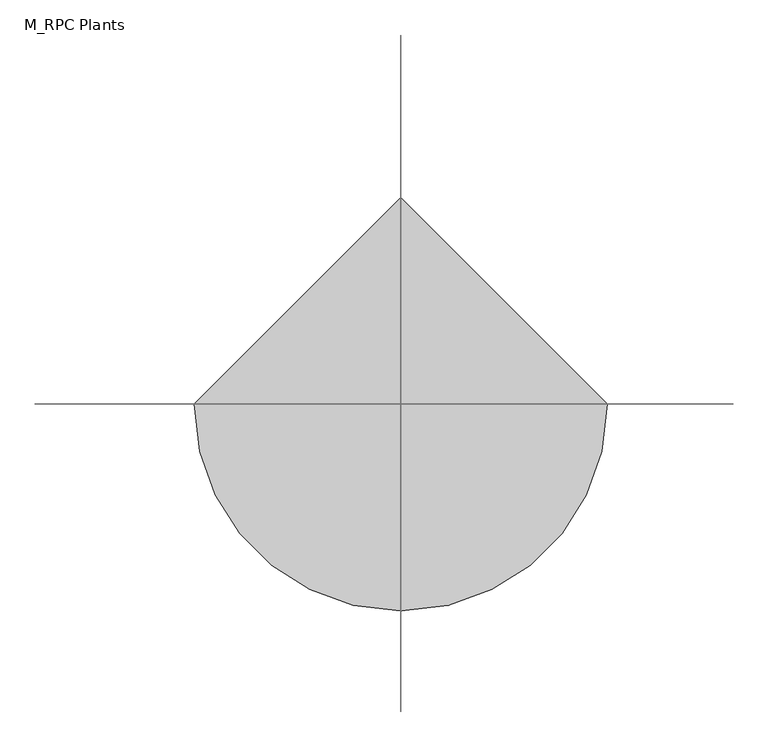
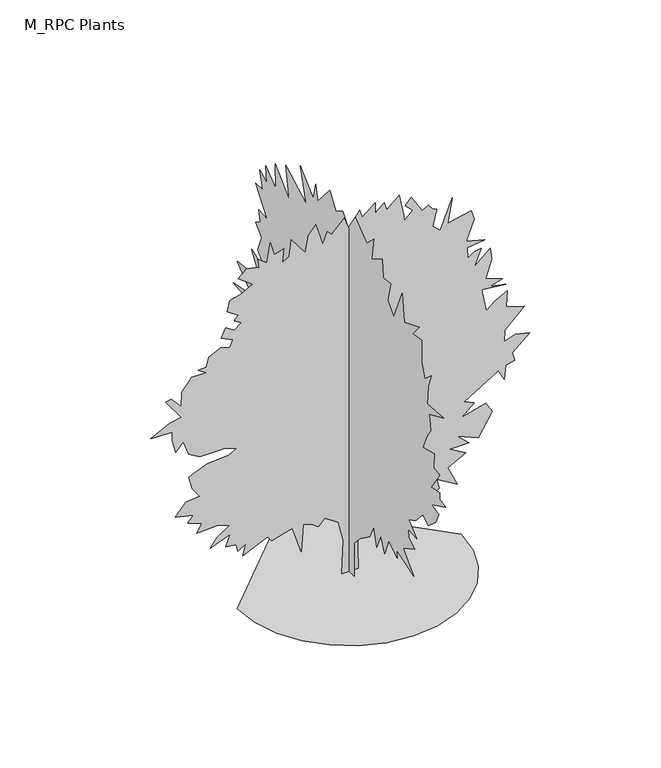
"""IFC4 building model written with IfcOpenShell, lengths in millimetres: proxy geometry, M_RPC Plants : Jungel Flame."""

from ifc_helpers import new_model, si_unit, origin, place, context, project, spatial, triangles, source, transform, mapped, element, save


def m_rpc_plants_31e44138(model_context):
    return source(origin(), model_context, "Body", "Tessellation", [
        triangles([(-297.8835799, 0.0, 5.16e-05), (-290.0095692, -68.2551316, 5.16e-05), (-267.5813779, -130.9367389, 5.16e-05), (-232.3950082, -186.2485517, 5.16e-05), (-186.2485517, -232.3952625, 5.16e-05), (-130.9367389, -267.5813779, 5.16e-05), (-68.2551316, -290.0095692, 5.16e-05), (1.3e-05, -297.8835799, 5.16e-05), (68.2551316, -290.0095692, 5.16e-05), (130.9367389, -267.5813779, 5.16e-05), (186.2485517, -232.3950082, 5.16e-05), (232.3952625, -186.2485517, 5.16e-05), (267.5813779, -130.9367389, 5.16e-05), (290.0095692, -68.2551316, 5.16e-05), (297.8835799, 2.6e-05, 5.16e-05), (-3.91e-05, 297.8835799, 5.16e-05), (-1.65e-05, -22.3446072, 4.98e-05), (-1.37e-05, -22.4089451, 93.4481205), (-1.4e-05, -48.2564431, 121.2837307), (-1.51e-05, -93.9863508, 155.0842657), (-1.48e-05, -113.868958, 194.849244), (-1.69e-05, -127.7866314, 145.1429666), (-1.64e-05, -145.6809334, 188.8845644), (-1.84e-05, -163.5752263, 149.1193318), (-1.77e-05, -181.4695374, 196.8375492), (-2.03e-05, -221.2347519, 170.9902534), (-1.95e-05, -219.2464467, 192.8611749), (-2.38e-05, -296.7888247, 167.0136247), (-2.02e-05, -249.070353, 216.7201655), (-2.16e-05, -300.7639273, 244.5557666), (-1.99e-05, -272.9306153, 260.4617543), (-1.92e-05, -270.9418014, 282.3336933), (-2.1e-05, -310.7054898, 280.3448793), (-1.85e-05, -274.9168858, 312.1558373), (-1.94e-05, -306.7304054, 328.0638416), (-1.98e-05, -338.5413634, 363.8524638), (-2.13e-05, -364.3884049, 349.9332553), (-2.2e-05, -398.1907022, 379.7579247), (-2.17e-05, -412.1073672, 409.5800869), (-2e-05, -380.2964092, 417.5353426), (-2.19e-05, -443.9208687, 449.3463006), (-2.05e-05, -416.0849951, 455.3102171), (-2e-05, -416.0849951, 473.2045464), (-1.85e-05, -378.3075771, 465.2517978), (-1.85e-05, -416.0849951, 522.9123407), (-1.71e-05, -388.2491578, 526.8874251), (-1.6e-05, -390.2379536, 566.6536752), (-1.41e-05, -338.5413634, 554.7232987), (-1.37e-05, -358.4244884, 598.4646332), (-1.37e-05, -374.3299493, 622.325386), (-1.22e-05, -368.3660328, 664.0779247), (-1.42e-05, -433.9793243, 693.9025578), (-1.1e-05, -358.4244884, 687.9386776), (-9.7e-06, -364.3884049, 741.6215927), (-9.1e-06, -376.3187814, 777.4101786), (-8.6e-06, -346.4940757, 751.5605936), (-6.8e-06, -332.5774469, 789.3380116), (-5e-06, -332.5774469, 850.9736389), (-3.4e-06, -292.8111969, 845.0096861), (-3.7e-06, -322.6358663, 880.7983446), (-1.4e-06, -253.0469816, 852.962471), (1.3e-06, -243.1056735, 928.5173069), (3e-07, -205.3287642, 839.0458059), (2.5e-06, -177.4931631, 868.8679682), (3.5e-06, -191.4108456, 924.5396427), (4.9e-06, -157.6105468, 920.564522), (6.6e-06, -151.6456129, 968.2810135), (7.9e-06, -103.9276498, 940.4451399), (9.3e-06, -111.8806437, 1000.0944786), (9.9e-06, -80.0684139, 970.2698456), (1.34e-05, -28.3738313, 1012.0223116), (1.33e-05, 3.4383978, 962.3170607), (1.55e-05, 29.285692, 994.128055), (1.63e-05, 61.0979195, 976.2337257), (1.88e-05, 88.9335251, 1015.9999758), (1.94e-05, 144.6047364, 952.3755163), (2.1e-05, 154.5460354, 994.128055), (2.02e-05, 166.475667, 946.4115635), (2.45e-05, 226.1232435, 1002.0833107), (2.06e-05, 198.2876424, 912.6118097), (2.63e-05, 291.7367712, 964.3058928), (2.3e-05, 275.8287488, 876.8232239), (2.77e-05, 339.4532264, 938.4588512), (2.56e-05, 337.4669377, 870.8567276), (2.87e-05, 383.1945608, 906.6453861), (2.71e-05, 379.2194401, 860.9151833), (2.91e-05, 411.0303981, 878.8095125), (2.7e-05, 397.113733, 831.0930937), (2.85e-05, 430.9135231, 829.1042616), (2.4e-05, 377.2306443, 759.5158493), (2.58e-05, 415.0080623, 763.49097), (2.47e-05, 409.0441458, 733.6662643), (2.52e-05, 430.9135231, 719.7495993), (2.32e-05, 403.0776858, 691.9137983), (2.26e-05, 420.9719788, 648.1724276), (1.97e-05, 381.2082722, 608.4061775), (2.34e-05, 448.807816, 632.2669304), (1.9e-05, 401.0888537, 554.7232987), (2.1e-05, 436.8774396, 568.6424709), (2.42e-05, 514.4211076, 558.7009266), (1.96e-05, 448.807816, 505.0180115), (2.28e-05, 532.3154005, 487.1237185), (1.85e-05, 440.8551038, 479.1710063), (1.74e-05, 430.9135231, 457.2990492), (2.16e-05, 530.3266047, 447.3575048), (1.66e-05, 438.8662717, 419.5216312), (1.6e-05, 456.7605646, 369.8163803), (1.51e-05, 409.0441458, 411.5688827), (1.33e-05, 395.1249372, 371.8051761), (1.47e-05, 442.8438995, 349.9332553), (1.34e-05, 444.8327316, 302.2142748), (9.7e-06, 379.2194401, 276.3672333), (1.12e-05, 426.9384387, 254.4978378), (5.4e-06, 323.5477292, 216.7201655), (7.3e-06, 379.2194401, 194.849244), (7.4e-06, 411.0303981, 151.1076461), (4.7e-06, 327.5253571, 184.9081902), (2.9e-06, 321.5588971, 135.2016584), (2.6e-06, 287.7591252, 174.966882), (0.0, 265.8897297, 119.2956707), (1.8e-06, 267.8760183, 176.9549329), (1.3e-06, 253.9588446, 182.9198668), (-1.2e-06, 226.1232435, 141.1663379), (-2e-07, 228.1115487, 170.9902534), (-2.1e-06, 180.3933313, 176.9549329), (-2.7e-06, 186.3580108, 151.1076461), (-3.4e-06, 154.5460354, 174.966882), (-6.1e-06, 144.6047364, 99.4130544), (-6.1e-06, 82.9688456, 190.8728697), (-7.1e-06, 69.0509133, 178.9432563), (-8.2e-06, 41.2153077, 182.9198668), (-8.5e-06, 57.1215497, 149.1193318), (-9.5e-06, 17.3562001, 174.966882), (-1.44e-05, 25.309295, 5.13e-05), (-19.2607679, 5.89e-05, 1.9e-06), (-15.3064967, 5.32e-05, 92.9241154), (-29.1462451, 5.05e-05, 148.2829094), (-64.7341846, 5.06e-05, 172.0082871), (-82.5281566, 5.25e-05, 154.2143151), (-100.3221195, 5.24e-05, 168.0540227), (-122.0703651, 5.3e-05, 173.9854194), (-128.0015165, 5.76e-05, 100.8324082), (-151.7268943, 5.43e-05, 173.9854194), (-205.1088103, 5.76e-05, 158.1685977), (-216.9713675, 5.72e-05, 173.9854194), (-282.2168581, 6.19e-05, 142.351758), (-274.3072937, 5.97e-05, 173.9854194), (-296.0547671, 6.15e-05, 160.14573), (-300.0095584, 6.05e-05, 179.9165799), (-327.6904633, 6.14e-05, 183.8708443), (-315.8261438, 5.9e-05, 215.5045239), (-369.2092953, 6.27e-05, 193.7565236), (-351.4140879, 6.05e-05, 217.4816561), (-317.8048021, 5.76e-05, 241.2070248), (-351.4140879, 5.85e-05, 251.0924498), (-404.7972393, 6.09e-05, 249.1153175), (-390.956805, 5.9e-05, 270.8630453), (-428.5208639, 5.98e-05, 284.7035159), (-414.6829368, 5.82e-05, 302.4962162), (-462.1326568, 5.95e-05, 314.3605356), (-434.4542953, 5.64e-05, 345.9937065), (-396.887693, 5.46e-05, 349.9484797), (-416.6590516, 5.38e-05, 377.6268774), (-426.5447127, 5.21e-05, 413.2148214), (-377.1163344, 4.86e-05, 434.9622949), (-319.780917, 4.59e-05, 438.917068), (-298.0334254, 4.42e-05, 450.7814238), (-333.6213876, 4.52e-05, 460.6645414), (-396.887693, 4.8e-05, 460.6645414), (-426.5447127, 4.82e-05, 478.4597852), (-440.3851833, 4.64e-05, 518.0025023), (-460.1565419, 4.86e-05, 496.2524855), (-470.0396959, 4.69e-05, 531.8404295), (-470.0396959, 4.55e-05, 555.5665612), (-527.3776568, 4.79e-05, 557.5426761), (-475.9731274, 4.41e-05, 583.2475024), (-446.3160713, 4.25e-05, 589.1783904), (-487.8349397, 4.09e-05, 646.5138079), (-472.0183542, 4e-05, 648.4899227), (-446.3160713, 4.07e-05, 618.8354101), (-444.337413, 3.82e-05, 658.3755838), (-418.6351665, 3.51e-05, 691.987413), (-379.0949927, 3.35e-05, 690.0087547), (-400.8424662, 3.35e-05, 705.8278473), (-379.0949927, 3.26e-05, 705.8278473), (-373.1615613, 3.08e-05, 731.5301302), (-341.5283904, 2.84e-05, 747.346752), (-317.8048021, 2.79e-05, 739.437133), (-309.8952195, 2.64e-05, 759.2085279), (-339.5522756, 2.68e-05, 773.0489622), (-327.6904633, 2.48e-05, 798.7512451), (-305.9404464, 2.47e-05, 784.9108109), (-286.1690878, 2.3e-05, 798.7512451), (-305.9404464, 2.31e-05, 810.6130211), (-294.0786522, 2.19e-05, 822.4748697), (-323.7356901, 2.2e-05, 842.246192), (-317.8048021, 2e-05, 871.903248), (-288.1477461, 1.82e-05, 879.8127943), (-256.5145934, 1.59e-05, 895.6293434), (-294.0786522, 1.58e-05, 925.2863995), (-272.3311788, 1.36e-05, 945.0577944), (-238.719604, 1.26e-05, 937.1482481), (-242.6736322, 1.14e-05, 960.8743435), (-218.9484997, 1.14e-05, 943.0791361), (-209.0628204, 7.8e-06, 996.4622875), (-199.1773955, 9.6e-06, 958.8956852), (-173.4748764, 8e-06, 966.8052315), (-177.429159, 1.04e-05, 929.2386292), (-159.635187, 8.9e-06, 941.1030212), (-153.7037722, 6.1e-06, 984.5979681), (-116.1389593, 7.4e-06, 935.1721333), (-108.2304123, 4.3e-06, 980.6457384), (-88.459308, 2.1e-06, 1004.3692904), (-70.6655904, 4.9e-06, 943.0791361), (-58.8027788, 2.5e-06, 974.712307), (-46.9402171, 2.7e-06, 962.8504583), (-13.329386, -7e-07, 996.4622875), (-1.4667204, 6e-07, 964.8265732), (28.1899354, -3e-06, 1004.3692904), (34.1210891, -2e-06, 982.6218533), (69.7090263, -5.2e-06, 1010.300251), (69.7090263, -3.4e-06, 980.6457384), (93.4344041, -5.8e-06, 1002.3931755), (99.3655555, -4.7e-06, 980.6457384), (132.9763673, -8e-06, 1010.300251), (144.8391788, -4.8e-06, 949.0100241), (146.816311, -4e-06, 933.1934023), (168.5642931, -6.2e-06, 954.9434555), (148.793198, -6.5e-06, 974.712307), (164.610283, -8.3e-06, 992.5075144), (194.2668122, -6.8e-06, 945.0577944), (210.083652, -8e-06, 954.9434555), (219.969077, -7.6e-06, 941.1030212), (231.8318885, -7.8e-06, 935.1721333), (221.9462092, -4.8e-06, 891.6745703), (241.7173134, -4.6e-06, 873.8819063), (273.3497213, -1.07e-05, 952.9647972), (261.487909, -6.2e-06, 885.7436823), (324.756776, -9.8e-06, 899.5841892), (332.6637789, -8.6e-06, 873.8819063), (310.9163054, -4.3e-06, 818.5225674), (360.3447201, -5.7e-06, 804.6821331), (312.8924203, -3.2e-06, 798.7512451), (314.8710786, -1.5e-06, 769.0941891), (332.6637789, -3e-06, 780.9560377), (350.4590226, -4e-06, 784.9108109), (332.6637789, -6e-07, 739.437133), (374.1826472, -4.6e-06, 777.0037354), (378.1374204, -2.9e-06, 745.3680937), (362.3208349, 7e-07, 695.9421862), (405.8183252, -2e-07, 680.1256371), (374.1826472, 1.8e-06, 670.2399759), (415.7014792, 5e-07, 660.3542421), (352.4351375, 2.8e-06, 668.2613176), (364.2969498, 6.1e-06, 604.9949759), (388.0230815, 3.9e-06, 624.7662981), (419.6562524, 1.5e-06, 640.5829199), (417.6801375, 4.2e-06, 597.0853932), (465.1298575, 3.1e-06, 581.2688441), (413.7253644, 8.3e-06, 531.8404295), (411.7492132, 1.02e-05, 500.2072586), (441.4037258, 8.2e-06, 512.0716144), (478.9703281, 7.2e-06, 502.1859169), (433.496723, 1.15e-05, 462.6431997), (439.427611, 1.27e-05, 438.917068), (415.7014792, 1.41e-05, 432.98618), (411.7492132, 1.65e-05, 395.4221211), (395.9326641, 1.54e-05, 425.0765974), (304.9854175, 2.27e-05, 369.7198382), (332.6637789, 2.22e-05, 357.8555188), (297.075853, 2.55e-05, 328.1984628), (362.3208349, 2.16e-05, 345.9937065), (380.1135352, 2.26e-05, 316.3366868), (342.5494763, 2.79e-05, 255.046478), (287.1901737, 2.89e-05, 278.7726098), (316.8472298, 2.92e-05, 251.0924498), (267.4188151, 3.15e-05, 249.1153175), (308.9376472, 3.11e-05, 225.3902032), (261.487909, 3.47e-05, 199.6876841), (287.1901737, 3.69e-05, 144.3286358), (231.8316341, 3.73e-05, 177.9394476), (239.7401812, 3.86e-05, 150.2600507), (200.1979727, 4.14e-05, 132.4660787), (162.6331508, 4.11e-05, 166.0768723), (168.5642931, 4.56e-05, 85.0155775), (146.816311, 4.22e-05, 158.1685977), (91.4572718, 4.73e-05, 112.6949744), (101.3426968, 4.41e-05, 160.14573), (59.8236013, 4.92e-05, 104.7866817), (47.9607853, 4.76e-05, 140.3746166), (73.6632998, 4.26e-05, 205.6190989), (38.0753603, 4.45e-05, 199.6876841), (20.2813656, 4.7e-05, 170.0311549), (24.2355619, 5.7e-05, 0.0)], [[15, 16, 1], [14, 15, 1], [14, 1, 2], [13, 14, 2], [13, 2, 3], [13, 3, 4], [12, 13, 4], [11, 12, 4], [11, 4, 5], [11, 5, 6], [11, 6, 7], [11, 7, 8], [11, 8, 9], [11, 9, 10], [101, 102, 103], [119, 120, 121], [51, 52, 53], [104, 105, 106], [76, 77, 78], [27, 28, 29], [59, 60, 61], [106, 107, 108], [78, 79, 80], [122, 123, 124], [61, 62, 63], [54, 55, 56], [131, 132, 133], [115, 116, 117], [114, 115, 117], [21, 22, 23], [40, 41, 42], [32, 33, 34], [96, 97, 98], [68, 69, 70], [125, 126, 127], [127, 128, 129], [82, 83, 84], [86, 87, 88], [112, 113, 114], [23, 24, 25], [99, 100, 101], [84, 85, 86], [117, 118, 119], [80, 81, 82], [25, 26, 27], [88, 89, 90], [29, 30, 31], [44, 45, 46], [66, 67, 68], [64, 65, 66], [90, 91, 92], [46, 47, 48], [74, 75, 76], [92, 93, 94], [42, 43, 44], [40, 42, 44], [38, 39, 40], [98, 99, 101], [57, 58, 59], [70, 71, 72], [133, 134, 17], [133, 17, 18], [133, 18, 19], [104, 106, 108], [114, 117, 119], [72, 73, 74], [133, 19, 20], [37, 38, 40], [36, 37, 40], [133, 20, 21], [110, 111, 112], [109, 110, 112], [44, 46, 48], [53, 54, 56], [94, 95, 96], [98, 101, 103], [90, 92, 94], [68, 70, 72], [114, 119, 121], [114, 121, 122], [98, 103, 104], [129, 130, 131], [64, 66, 68], [86, 88, 90], [84, 86, 90], [82, 84, 90], [25, 27, 29], [25, 29, 31], [25, 31, 32], [57, 59, 61], [57, 61, 63], [56, 57, 63], [53, 56, 63], [98, 104, 108], [49, 50, 51], [36, 40, 44], [36, 44, 48], [35, 36, 48], [34, 35, 48], [25, 32, 34], [23, 25, 34], [21, 23, 34], [21, 34, 48], [133, 21, 48], [131, 133, 48], [129, 131, 48], [90, 94, 96], [82, 90, 96], [80, 82, 96], [109, 112, 114], [109, 114, 122], [64, 68, 72], [122, 124, 125], [109, 122, 125], [109, 125, 127], [109, 127, 129], [109, 129, 48], [108, 109, 48], [98, 108, 48], [96, 98, 48], [80, 96, 48], [78, 80, 48], [76, 78, 48], [74, 76, 48], [72, 74, 48], [64, 72, 48], [63, 64, 48], [53, 63, 48], [53, 48, 49], [53, 49, 51], [252, 253, 254], [236, 237, 238], [284, 285, 286], [141, 142, 143], [241, 242, 243], [204, 205, 206], [174, 175, 176], [151, 152, 153], [279, 280, 281], [266, 267, 268], [183, 184, 185], [250, 251, 252], [151, 153, 154], [286, 287, 288], [202, 203, 204], [209, 210, 211], [275, 276, 277], [145, 146, 147], [218, 219, 220], [220, 221, 222], [247, 248, 249], [288, 289, 290], [288, 290, 291], [155, 156, 157], [262, 263, 264], [212, 213, 214], [211, 212, 214], [245, 246, 247], [244, 245, 247], [171, 172, 173], [277, 278, 279], [261, 262, 264], [224, 225, 226], [256, 257, 258], [177, 178, 179], [177, 179, 180], [258, 259, 260], [222, 223, 224], [159, 160, 161], [269, 270, 271], [247, 249, 250], [216, 217, 218], [214, 215, 216], [206, 207, 208], [147, 148, 149], [250, 252, 254], [159, 161, 162], [157, 158, 159], [229, 230, 231], [228, 229, 231], [193, 194, 195], [149, 150, 151], [199, 200, 201], [199, 201, 202], [190, 191, 192], [189, 190, 192], [294, 135, 136], [293, 294, 136], [293, 136, 137], [204, 206, 208], [174, 176, 177], [264, 265, 266], [231, 232, 233], [238, 239, 240], [238, 240, 241], [236, 238, 241], [138, 139, 140], [255, 256, 258], [255, 258, 260], [163, 164, 165], [281, 282, 283], [281, 283, 284], [273, 274, 275], [272, 273, 275], [271, 272, 275], [233, 234, 235], [231, 233, 235], [162, 163, 165], [162, 165, 166], [143, 144, 145], [195, 196, 197], [195, 197, 198], [227, 228, 231], [227, 231, 235], [171, 173, 174], [171, 174, 177], [261, 264, 266], [261, 266, 268], [195, 198, 199], [293, 137, 138], [292, 293, 138], [157, 159, 162], [155, 157, 162], [155, 162, 166], [154, 155, 166], [154, 166, 167], [286, 288, 291], [284, 286, 291], [181, 182, 183], [180, 181, 183], [247, 250, 254], [147, 149, 151], [185, 186, 187], [185, 187, 188], [183, 185, 188], [199, 202, 204], [199, 204, 208], [224, 226, 227], [277, 279, 281], [277, 281, 284], [277, 284, 291], [261, 268, 269], [189, 192, 193], [236, 241, 243], [193, 195, 199], [193, 199, 208], [145, 147, 151], [145, 151, 154], [145, 154, 167], [143, 145, 167], [141, 143, 167], [222, 224, 227], [275, 277, 291], [271, 275, 291], [269, 271, 291], [177, 180, 183], [140, 141, 167], [138, 140, 167], [292, 138, 167], [291, 292, 167], [269, 291, 167], [261, 269, 167], [260, 261, 167], [255, 260, 167], [254, 255, 167], [247, 254, 167], [244, 247, 167], [243, 244, 167], [236, 243, 167], [235, 236, 167], [227, 235, 167], [222, 227, 167], [220, 222, 167], [218, 220, 167], [216, 218, 167], [214, 216, 167], [211, 214, 167], [209, 211, 167], [208, 209, 167], [193, 208, 167], [189, 193, 167], [188, 189, 167], [183, 188, 167], [177, 183, 167], [177, 167, 168], [171, 177, 168], [171, 168, 169], [170, 171, 169]], closed=False),
    ])


if __name__ == "__main__":
    model = new_model("IFC4")
    model_context = context("Model", 3, world=origin())
    ifc_project = project(units=[si_unit("LENGTHUNIT", "METRE", prefix="MILLI")], contexts=[model_context])
    site = spatial("IfcSite", under=ifc_project)
    building = spatial("IfcBuilding", under=site)
    placement = place(None, origin())
    m_rpc_plants_shape = m_rpc_plants_31e44138(model_context)
    element("IfcBuildingElementProxy", 1, Name="M_RPC Plants : Jungel Flame", ObjectType="M_RPC Plants : Jungel Flame", at=placement, inside=building, context=model_context, shape_type="MappedRepresentation", body=[
        mapped(m_rpc_plants_shape, transform((0.0, 0.0, 0.0), x_axis=(1.0, 0.0, 0.0), y_axis=(0.0, 1.0, 0.0), z_axis=(0.0, 0.0, 1.0))),
    ])
    save(model, "model.ifc")
